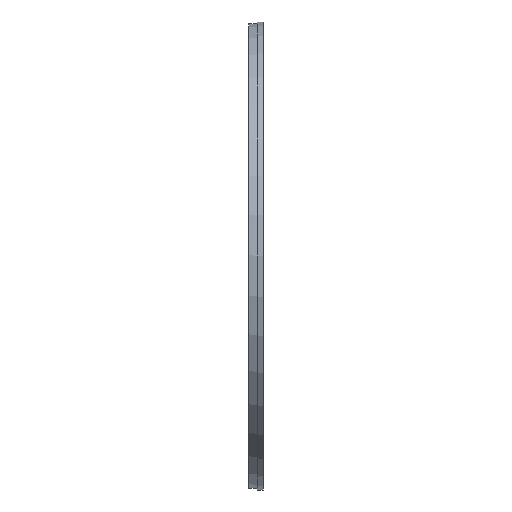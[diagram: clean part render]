
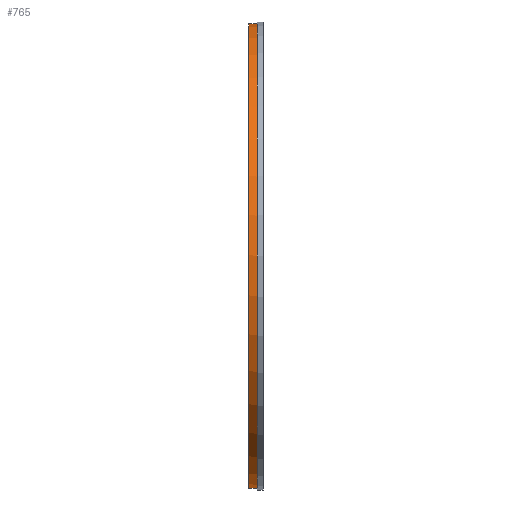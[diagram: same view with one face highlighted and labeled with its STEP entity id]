
A CAD part, left-side view. The second image highlights one B-rep face of the part: STEP entity #765.
In plain terms, the highlighted cylindrical face has radius 31.75 mm (diameter 63.5 mm), a partial arc.
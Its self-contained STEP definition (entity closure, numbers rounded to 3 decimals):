
#14 = DIRECTION ( 'NONE',  ( 0., -1., 0. ) ) ;
#62 = VECTOR ( 'NONE', #1179, 1000. ) ;
#89 = AXIS2_PLACEMENT_3D ( 'NONE', #1122, #1244, #260 ) ;
#108 = ORIENTED_EDGE ( 'NONE', *, *, #125, .T. ) ;
#123 = FACE_OUTER_BOUND ( 'NONE', #155, .T. ) ;
#125 = EDGE_CURVE ( 'NONE', #909, #1236, #522, .T. ) ;
#155 = EDGE_LOOP ( 'NONE', ( #246, #1203, #820, #1166, #108, #1212 ) ) ;
#192 = AXIS2_PLACEMENT_3D ( 'NONE', #1200, #417, #784 ) ;
#220 = DIRECTION ( 'NONE',  ( 0., 0., 1. ) ) ;
#230 = EDGE_CURVE ( 'NONE', #1236, #559, #995, .T. ) ;
#246 = ORIENTED_EDGE ( 'NONE', *, *, #933, .F. ) ;
#260 = DIRECTION ( 'NONE',  ( 0., 0., 1. ) ) ;
#271 = CARTESIAN_POINT ( 'NONE',  ( 0., 0.8, 31.75 ) ) ;
#274 = VECTOR ( 'NONE', #14, 1000. ) ;
#341 = CIRCLE ( 'NONE', #1026, 31.75 ) ;
#394 = DIRECTION ( 'NONE',  ( 0., -1., 0. ) ) ;
#417 = DIRECTION ( 'NONE',  ( 0., -1., 0. ) ) ;
#426 = DIRECTION ( 'NONE',  ( 0., 1., 0. ) ) ;
#435 = VERTEX_POINT ( 'NONE', #1383 ) ;
#458 = EDGE_CURVE ( 'NONE', #990, #502, #1295, .T. ) ;
#502 = VERTEX_POINT ( 'NONE', #1055 ) ;
#522 = LINE ( 'NONE', #1073, #1094 ) ;
#525 = LINE ( 'NONE', #959, #274 ) ;
#559 = VERTEX_POINT ( 'NONE', #271 ) ;
#570 = EDGE_CURVE ( 'NONE', #502, #435, #682, .T. ) ;
#682 = CIRCLE ( 'NONE', #89, 31.75 ) ;
#733 = DIRECTION ( 'NONE',  ( 0., 0., 1. ) ) ;
#740 = CARTESIAN_POINT ( 'NONE',  ( -0.25, 2.001, -31.749 ) ) ;
#757 = CARTESIAN_POINT ( 'NONE',  ( -0.25, 2.001, -31.749 ) ) ;
#765 = ADVANCED_FACE ( 'NONE', ( #123 ), #928, .T. ) ;
#784 = DIRECTION ( 'NONE',  ( 0., 0., -1. ) ) ;
#820 = ORIENTED_EDGE ( 'NONE', *, *, #458, .F. ) ;
#834 = DIRECTION ( 'NONE',  ( 0., 1., 0. ) ) ;
#909 = VERTEX_POINT ( 'NONE', #1174 ) ;
#928 = CYLINDRICAL_SURFACE ( 'NONE', #192, 31.75 ) ;
#933 = EDGE_CURVE ( 'NONE', #435, #559, #525, .T. ) ;
#958 = CARTESIAN_POINT ( 'NONE',  ( 0., 0.8, 0. ) ) ;
#959 = CARTESIAN_POINT ( 'NONE',  ( 0., 2., 31.75 ) ) ;
#990 = VERTEX_POINT ( 'NONE', #757 ) ;
#995 = CIRCLE ( 'NONE', #1187, 31.75 ) ;
#1026 = AXIS2_PLACEMENT_3D ( 'NONE', #1301, #834, #733 ) ;
#1055 = CARTESIAN_POINT ( 'NONE',  ( -0.25, 2., -31.749 ) ) ;
#1068 = EDGE_CURVE ( 'NONE', #909, #990, #341, .T. ) ;
#1073 = CARTESIAN_POINT ( 'NONE',  ( 0., 2., -31.75 ) ) ;
#1094 = VECTOR ( 'NONE', #394, 1000. ) ;
#1122 = CARTESIAN_POINT ( 'NONE',  ( 0., 2., 0. ) ) ;
#1148 = CARTESIAN_POINT ( 'NONE',  ( 0., 0.8, -31.75 ) ) ;
#1166 = ORIENTED_EDGE ( 'NONE', *, *, #1068, .F. ) ;
#1174 = CARTESIAN_POINT ( 'NONE',  ( 0., 2.001, -31.75 ) ) ;
#1179 = DIRECTION ( 'NONE',  ( 0., -1., 0. ) ) ;
#1187 = AXIS2_PLACEMENT_3D ( 'NONE', #958, #426, #220 ) ;
#1200 = CARTESIAN_POINT ( 'NONE',  ( 0., 2., 0. ) ) ;
#1203 = ORIENTED_EDGE ( 'NONE', *, *, #570, .F. ) ;
#1212 = ORIENTED_EDGE ( 'NONE', *, *, #230, .T. ) ;
#1236 = VERTEX_POINT ( 'NONE', #1148 ) ;
#1244 = DIRECTION ( 'NONE',  ( 0., 1., 0. ) ) ;
#1295 = LINE ( 'NONE', #740, #62 ) ;
#1301 = CARTESIAN_POINT ( 'NONE',  ( 0., 2.001, 0. ) ) ;
#1383 = CARTESIAN_POINT ( 'NONE',  ( 0., 2., 31.75 ) ) ;
